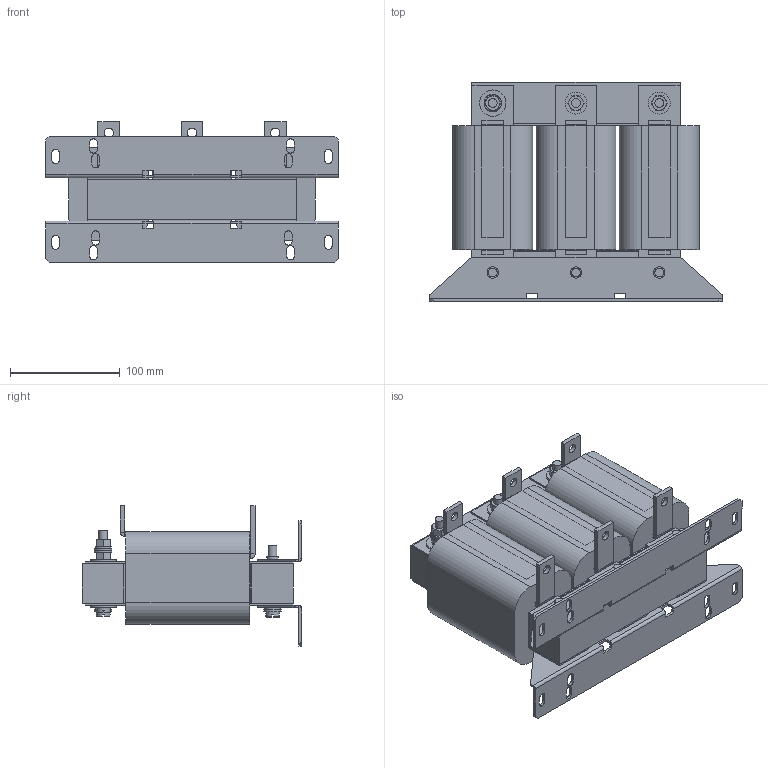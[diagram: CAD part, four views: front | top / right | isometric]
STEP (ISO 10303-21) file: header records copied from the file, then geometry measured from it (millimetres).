
FILE_DESCRIPTION (( 'STEP AP214' ), '1' );
FILE_NAME ('PCT-100.STEP', '2015-04-28T10:41:19', ( 'EDV' ), ( 'Microsoft' ), 'SwSTEP 2.0', 'SolidWorks 2014', '' );
FILE_SCHEMA (( 'AUTOMOTIVE_DESIGN' ));
Length unit declared in the file: millimetre
Products named in the file (20): #142-0001_t=39; #143-0001; #700-0093; #700-0092; #040-0840a; slotted cheese head screw_din_ISO 1207 - M8 x 60 --- 38N; #040-0836a; curved spring lock washer_din_Spring washer DIN 128 - A8; plain washer large_din_Washer DIN 9021 - 8.4; PCT-100; hex nut style 1 gradeab_din_Hexagon Nut ISO 4032 - M8 - D - N; plain washer grade a_din_Washer DIN 125 - A 8.4; plain washer grade a_din_Washer DIN 125 - A 10.5; Isolierbuchse M8_M05; slotted cheese head screw_din_ISO 1207 - M8 x 70 --- 70N; Wickel f黵 LR3 40-3_100; Luftspalt 190x36,5x1,2mm; Luftspalt 190x36,5x1,5mm; D57
Assembly tree (53 placements, depth 2):
  PCT-100
    #040-0836a
    #040-0840a
    #700-0092  x3
    #700-0093  x3
    #143-0001  x3
    #142-0001_t=39
    #142-0001_t=39
    D57  x6
    Luftspalt 190x36,5x1,5mm
    Luftspalt 190x36,5x1,2mm
    Wickel f黵 LR3 40-3_100  x3
    slotted cheese head screw_din_ISO 1207 - M8 x 70 --- 70N
    Isolierbuchse M8_M05  x5
    plain washer grade a_din_Washer DIN 125 - A 10.5  x4
    plain washer grade a_din_Washer DIN 125 - A 8.4  x7
    hex nut style 1 gradeab_din_Hexagon Nut ISO 4032 - M8 - D - N  x4
    plain washer large_din_Washer DIN 9021 - 8.4  x2
    curved spring lock washer_din_Spring washer DIN 128 - A8
    slotted cheese head screw_din_ISO 1207 - M8 x 60 --- 38N  x5
Bounding box: 267 x 200.2 x 128 mm (x, y, z)
Volume: 2713932.7 mm3; surface area: 565590.9 mm2
Topology: 53 solids, 53 shells, 894 faces, 2135 edges, 1375 vertices
Faces by surface type: plane 627, cylinder 157, cone 62, bspline 34, torus 14
Full cylindrical faces by diameter (mm): 4.631 x1, 6.8 x4, 7.4 x3, 8 x10, 8.2 x5, 8.4 x9, 8.5 x6, 9.9 x5, 10.5 x10, 11 x6, 11.5 x6, 14 x5, 16 x7, 20 x4, 24 x2
Entity records: 22788 total; most frequent: CARTESIAN_POINT 5552, ORIENTED_EDGE 2772, DIRECTION 2625, EDGE_CURVE 1386, VECTOR 1085, LINE 1085, VERTEX_POINT 921, AXIS2_PLACEMENT_3D 770
